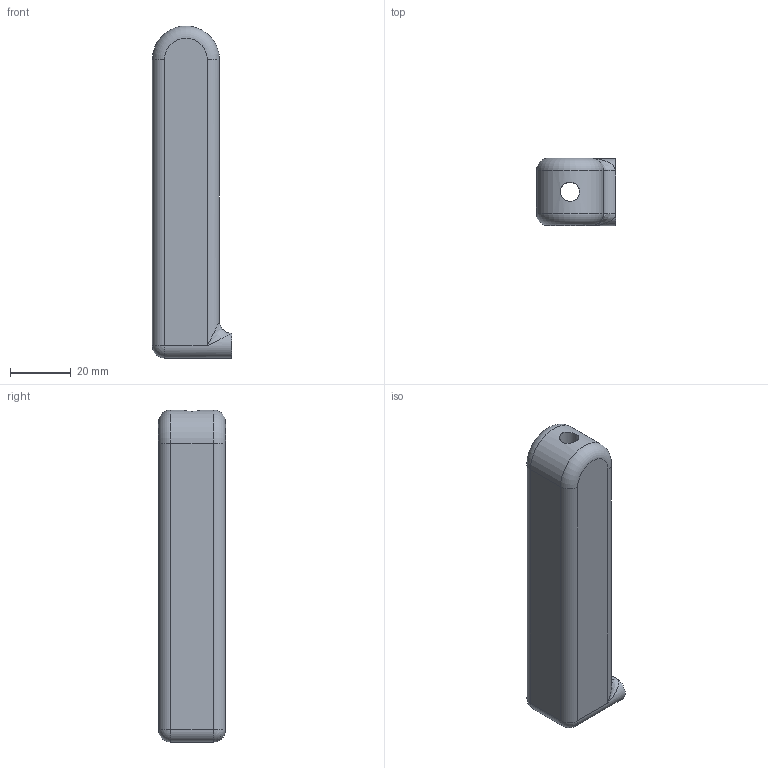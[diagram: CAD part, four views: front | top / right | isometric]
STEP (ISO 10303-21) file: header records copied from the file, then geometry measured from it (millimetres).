
FILE_DESCRIPTION(/* description */ (''),/* implementation_level */ '2;1');
FILE_NAME(/* name */ 'C:/Users/Owner/Desktop/K-CAD Songbird PM4 Centerfire/STEP/Barrels/Barrel Type 2/Barrel Type 2 0.25 inch ID.step',/* time_stamp */ '2020-12-05T21:36:09-05:00',/* author */ (''),/* organization */ (''),/* preprocessor_version */ 'ST-DEVELOPER v18.1',/* originating_system */ 'Autodesk Translation Framework v9.3.0.1241',/* authorisation */ '');
FILE_SCHEMA (('AUTOMOTIVE_DESIGN { 1 0 10303 214 3 1 1 }'));
Length unit declared in the file: inch
Products named in the file (1): Barrel Type 2 0.25 inch ID
Bounding box: 26 x 22 x 109 mm (x, y, z)
Volume: 47152.4 mm3; surface area: 11641.1 mm2
Topology: 1 solids, 1 shells, 22 faces, 50 edges, 27 vertices
Faces by surface type: cylinder 10, plane 6, bspline 2, sphere 2, torus 2
Full cylindrical faces by diameter (mm): 6.35 x1
Entity records: 742 total; most frequent: CARTESIAN_POINT 211, DIRECTION 112, ORIENTED_EDGE 94, EDGE_CURVE 47, AXIS2_PLACEMENT_3D 46, VERTEX_POINT 27, EDGE_LOOP 24, FACE_OUTER_BOUND 22
